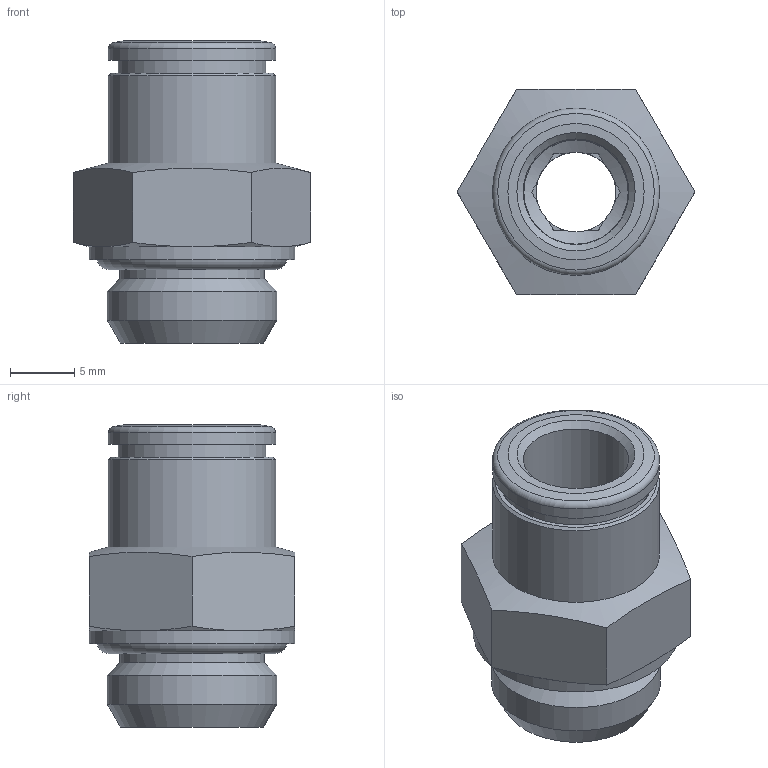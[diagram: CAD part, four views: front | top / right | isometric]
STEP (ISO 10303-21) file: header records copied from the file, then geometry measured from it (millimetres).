
FILE_DESCRIPTION(/* description */ (''),/* implementation_level */ '2;1');
FILE_NAME(/* name */ '200110-ES_STX01_8_G14_28.04.16',/* time_stamp */ '2016-04-28T11:33:53+02:00',/* author */ (''),/* organization */ (''),/* preprocessor_version */ 'ST-DEVELOPER v14',/* originating_system */ 'HiCAD 2013 1802.4 Build 509',/* authorisation */ '');
FILE_SCHEMA (('AUTOMOTIVE_DESIGN { 1 0 10303 214 1 1 1 1 }'));
Length unit declared in the file: millimetre
Products named in the file (4): Root; OR 11.11X1.78; R200110-ES-N1_16030; DR8-1_NEU
Assembly tree (3 placements, depth 2):
  Root
    OR 11.11X1.78
    R200110-ES-N1_16030
    DR8-1_NEU
Bounding box: 18.48 x 16 x 23.5 mm (x, y, z)
Volume: 2282 mm3; surface area: 2882.4 mm2
Topology: 3 solids, 3 shells, 67 faces, 155 edges, 96 vertices
Faces by surface type: plane 32, cone 19, cylinder 12, torus 4
Full cylindrical faces by diameter (mm): 6.2 x1, 8.1 x1, 8.2 x1, 10.1 x1, 11 x1, 11.2 x1, 11.5 x1, 11.6 x1, 13 x2, 13.157 x1, 16 x1
Entity records: 3026 total; most frequent: DIRECTION 346, CARTESIAN_POINT 279, PRESENTATION_STYLE_ASSIGNMENT 247, OVER_RIDING_STYLED_ITEM 244, COLOUR_RGB 239, DRAUGHTING_PRE_DEFINED_CURVE_FONT 236, CURVE_STYLE 236, ORIENTED_EDGE 236
